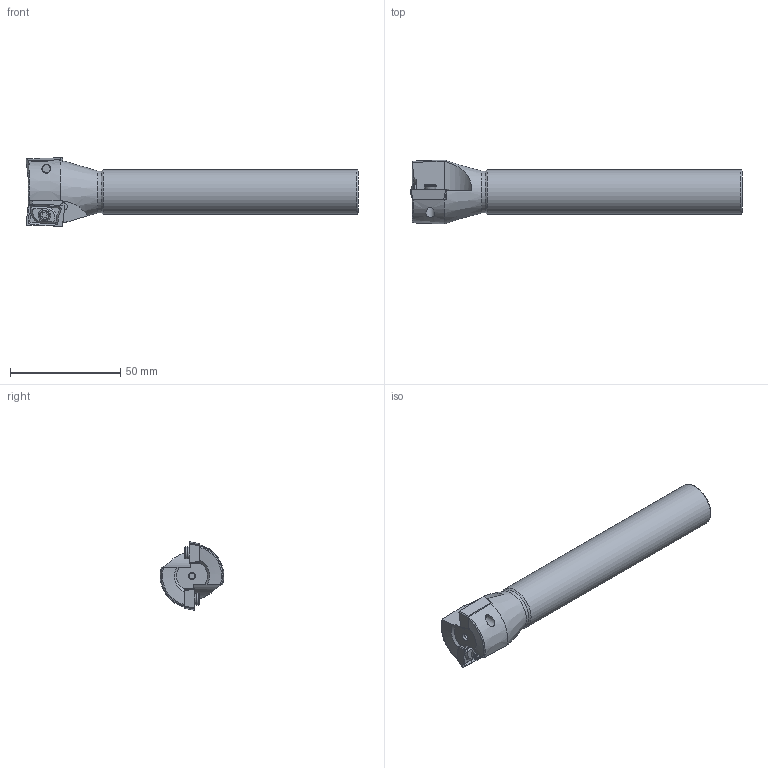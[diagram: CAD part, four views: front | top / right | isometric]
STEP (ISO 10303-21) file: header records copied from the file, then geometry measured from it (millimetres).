
FILE_DESCRIPTION(/* description */ (''),/* implementation_level */ '2;1');
FILE_NAME(/* name */ 'Z:\Проектный отдел\Арина\Фрезы\EAP400R-C20-30-150-2T\EAP400R-C20-30-150-2T.stp',/* time_stamp */ '2023-05-29T16:22:59+03:00',/* author */ ('user'),/* organization */ (''),/* preprocessor_version */ 'ST-DEVELOPER v18',/* originating_system */ 'Autodesk Inventor 2020',/* authorisation */ '');
FILE_SCHEMA (('AUTOMOTIVE_DESIGN { 1 0 10303 214 3 1 1 }'));
Length unit declared in the file: millimetre
Products named in the file (4): EAP400R-C20-30-150-2T; Деталь1; Напайка; болт
Assembly tree (5 placements, depth 2):
  EAP400R-C20-30-150-2T
    Деталь1
    Напайка  x2
    болт  x2
Bounding box: 150.5 x 28.97 x 31.09 mm (x, y, z)
Volume: 49537.5 mm3; surface area: 12611.1 mm2
Topology: 5 solids, 5 shells, 142 faces, 372 edges, 249 vertices
Faces by surface type: plane 65, bspline 32, cylinder 27, cone 13, torus 5
Full cylindrical faces by diameter (mm): 2.5 x1, 4 x6, 4.2 x2, 5.5 x4, 19 x1, 20 x1
Entity records: 4072 total; most frequent: CARTESIAN_POINT 1824, ORIENTED_EDGE 468, DIRECTION 395, EDGE_CURVE 234, VERTEX_POINT 157, AXIS2_PLACEMENT_3D 150, EDGE_LOOP 99, LINE 95
